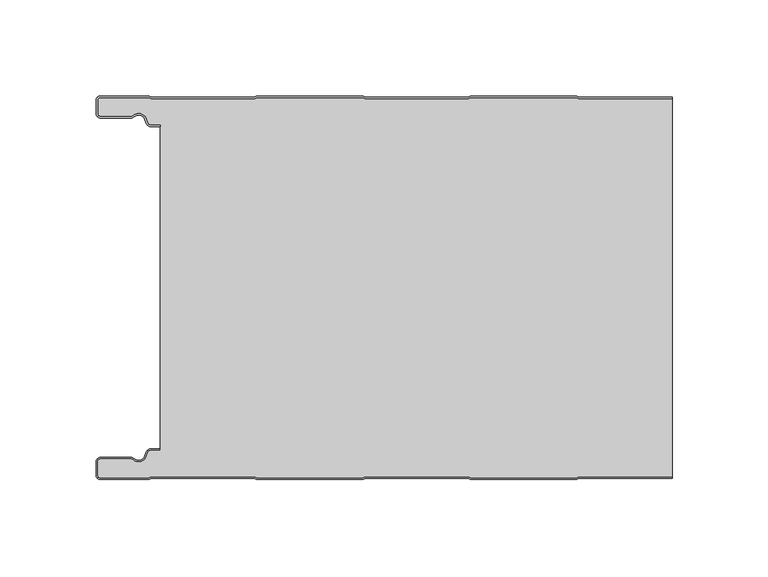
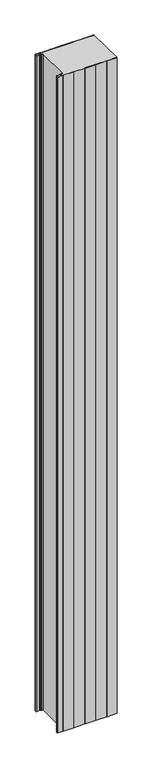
"""IFC4 building model written with IfcOpenShell, lengths in millimetres: plate geometry, ACH_Panel-Frigorífico_PUR-PIR : ACH_Panel-Frigorífico-PIR_200mm."""

from ifc_helpers import new_model, si_unit, point, frame_2d, origin, origin_with_axes, place, context, project, spatial, polyline, circle_curve, trimmed, segment, composite_curve, outline, extrude, source, transform, mapped, element, save


def plate_6adf54ea(model_context):
    return source(origin(), model_context, "Body", "SweptSolid", [
        extrude(outline(composite_curve([segment(trimmed(circle_curve(frame_2d((-147.49499, -9.0180361)), 2.50501), [point((-147.49499, -11.5230461))], [point((-150.0, -9.0180361))], False, "CARTESIAN"), True, "CONTINUOUS"), segment(polyline([(-150.0, -9.0180361), (-150.0, -2.50501)]), True, "CONTINUOUS"), segment(trimmed(circle_curve(frame_2d((-147.49499, -2.50501)), 2.50501), [point((-150.0, -2.50501))], [point((-147.49499, 0.0))], False, "CARTESIAN"), True, "CONTINUOUS"), segment(polyline([(-147.49499, 0.0), (-122.2103007, 0.0), (-121.028188, -0.6012024), (-67.6391467, -0.6012024), (-66.457034, 0.0), (-10.8776353, 0.0), (-9.6955227, -0.6012024), (43.6935186, -0.6012024), (44.8756313, 0.0), (100.45503, 0.0), (101.6371427, -0.6012024), (150.0, -0.6012024), (150.0, -1.4012024), (101.4453963, -1.4012024), (100.2632836, -0.8), (45.0673777, -0.8), (43.885265, -1.4012024), (-9.887269, -1.4012024), (-11.0693817, -0.8), (-66.2652876, -0.8), (-67.4474003, -1.4012024), (-121.2199344, -1.4012024), (-122.4020471, -0.8), (-147.49499, -0.8)]), True, "CONTINUOUS"), segment(trimmed(circle_curve(frame_2d((-147.49499, -2.50501)), 1.70501), [point((-147.49499, -0.8))], [point((-149.2, -2.50501))], True, "CARTESIAN"), True, "CONTINUOUS"), segment(polyline([(-149.2, -2.50501), (-149.2, -9.0180361)]), True, "CONTINUOUS"), segment(trimmed(circle_curve(frame_2d((-147.49499, -9.0180361)), 1.70501), [point((-149.2, -9.0180361))], [point((-147.49499, -10.7230461))], True, "CARTESIAN"), True, "CONTINUOUS"), segment(polyline([(-147.49499, -10.7230461), (-131.8173283, -10.7230461)]), True, "CONTINUOUS"), segment(trimmed(circle_curve(frame_2d((-131.8173283, -9.0180361)), 1.70501), [point((-131.8173283, -10.7230461))], [point((-130.6895701, -10.2967936))], True, "CARTESIAN"), True, "CONTINUOUS"), segment(trimmed(circle_curve(frame_2d((-127.8407481, -13.5270541)), 4.307014), [point((-130.6895701, -10.2967936))], [point((-123.7934788, -12.0539686))], False, "CARTESIAN"), True, "CONTINUOUS"), segment(polyline([(-123.7934788, -12.0539686), (-123.0450711, -14.1102019)]), True, "CONTINUOUS"), segment(trimmed(circle_curve(frame_2d((-121.4428858, -13.5270541)), 1.70501), [point((-123.0450711, -14.1102019))], [point((-121.4428858, -15.2320641))], True, "CARTESIAN"), True, "CONTINUOUS"), segment(polyline([(-121.4428858, -15.2320641), (-116.4328657, -15.2320641), (-116.4328657, -16.0320641), (-121.4428858, -16.0320641)]), True, "CONTINUOUS"), segment(trimmed(circle_curve(frame_2d((-121.4428858, -13.5270541)), 2.50501), [point((-121.4428858, -16.0320641))], [point((-123.7968252, -14.383818))], False, "CARTESIAN"), True, "CONTINUOUS"), segment(polyline([(-123.7968252, -14.383818), (-124.5452329, -12.3275847)]), True, "CONTINUOUS"), segment(trimmed(circle_curve(frame_2d((-127.8407481, -13.5270541)), 3.507014), [point((-124.5452329, -12.3275847))], [point((-130.1604199, -10.8967936))], True, "CARTESIAN"), True, "CONTINUOUS"), segment(trimmed(circle_curve(frame_2d((-131.8173283, -9.0180361)), 2.50501), [point((-130.1604199, -10.8967936))], [point((-131.8173283, -11.5230461))], False, "CARTESIAN"), True, "CONTINUOUS"), segment(polyline([(-131.8173283, -11.5230461), (-147.49499, -11.5230461)]), True, "CONTINUOUS")], self_intersect=False)), origin_with_axes(), (0.0, 0.0, 1.0), 3500.0),
        extrude(outline(composite_curve([segment(trimmed(circle_curve(frame_2d((-121.4428858, -13.5270541)), 1.70501), [point((-121.4428858, -15.2320641))], [point((-123.0450711, -14.1102019))], False, "CARTESIAN"), True, "CONTINUOUS"), segment(polyline([(-123.0450711, -14.1102019), (-123.7934788, -12.0539686)]), True, "CONTINUOUS"), segment(trimmed(circle_curve(frame_2d((-127.8407481, -13.5270541)), 4.307014), [point((-123.7934788, -12.0539686))], [point((-130.6895701, -10.2967936))], True, "CARTESIAN"), True, "CONTINUOUS"), segment(trimmed(circle_curve(frame_2d((-131.8173283, -9.0180361)), 1.70501), [point((-130.6895701, -10.2967936))], [point((-131.8173283, -10.7230461))], False, "CARTESIAN"), True, "CONTINUOUS"), segment(polyline([(-131.8173283, -10.7230461), (-147.49499, -10.7230461)]), True, "CONTINUOUS"), segment(trimmed(circle_curve(frame_2d((-147.49499, -9.0180361)), 1.70501), [point((-147.49499, -10.7230461))], [point((-149.2, -9.0180361))], False, "CARTESIAN"), True, "CONTINUOUS"), segment(polyline([(-149.2, -9.0180361), (-149.2, -2.50501)]), True, "CONTINUOUS"), segment(trimmed(circle_curve(frame_2d((-147.49499, -2.50501)), 1.70501), [point((-149.2, -2.50501))], [point((-147.49499, -0.8))], False, "CARTESIAN"), True, "CONTINUOUS"), segment(polyline([(-147.49499, -0.8), (-122.4020471, -0.8), (-121.2199344, -1.4012024), (-67.4474003, -1.4012024), (-66.2652876, -0.8), (-11.0693817, -0.8), (-9.887269, -1.4012024), (43.885265, -1.4012024), (45.0673777, -0.8), (100.2632836, -0.8), (101.4453963, -1.4012024), (150.0, -1.4012024), (150.0, -198.5987976), (101.4453963, -198.5987976), (100.2632836, -199.2), (45.0673777, -199.2), (43.885265, -198.5987976), (-9.887269, -198.5987976), (-11.0693817, -199.2), (-66.2652876, -199.2), (-67.4474003, -198.5987976), (-121.2199344, -198.5987976), (-122.4020471, -199.2), (-147.49499, -199.2)]), True, "CONTINUOUS"), segment(trimmed(circle_curve(frame_2d((-147.49499, -197.49499)), 1.70501), [point((-147.49499, -199.2))], [point((-149.2, -197.49499))], False, "CARTESIAN"), True, "CONTINUOUS"), segment(polyline([(-149.2, -197.49499), (-149.2, -190.9819639)]), True, "CONTINUOUS"), segment(trimmed(circle_curve(frame_2d((-147.49499, -190.9819639)), 1.70501), [point((-149.2, -190.9819639))], [point((-147.49499, -189.2769539))], False, "CARTESIAN"), True, "CONTINUOUS"), segment(polyline([(-147.49499, -189.2769539), (-131.8173283, -189.2769539)]), True, "CONTINUOUS"), segment(trimmed(circle_curve(frame_2d((-131.8173283, -190.9819639)), 1.70501), [point((-131.8173283, -189.2769539))], [point((-130.6895701, -189.7032064))], False, "CARTESIAN"), True, "CONTINUOUS"), segment(trimmed(circle_curve(frame_2d((-127.8407481, -186.4729459)), 4.307014), [point((-130.6895701, -189.7032064))], [point((-123.7934788, -187.9460314))], True, "CARTESIAN"), True, "CONTINUOUS"), segment(polyline([(-123.7934788, -187.9460314), (-123.0450711, -185.8897981)]), True, "CONTINUOUS"), segment(trimmed(circle_curve(frame_2d((-121.4428858, -186.4729459)), 1.70501), [point((-123.0450711, -185.8897981))], [point((-121.4428858, -184.7679359))], False, "CARTESIAN"), True, "CONTINUOUS"), segment(polyline([(-121.4428858, -184.7679359), (-116.4328657, -184.7679359), (-116.4328657, -15.2320641), (-121.4428858, -15.2320641)]), True, "CONTINUOUS")], self_intersect=False)), origin_with_axes(), (0.0, 0.0, 1.0), 3500.0),
        extrude(outline(composite_curve([segment(polyline([(-147.49499, -188.4769539), (-131.8173283, -188.4769539)]), True, "CONTINUOUS"), segment(trimmed(circle_curve(frame_2d((-131.8173283, -190.9819639)), 2.50501), [point((-131.8173283, -188.4769539))], [point((-130.1604199, -189.1032064))], False, "CARTESIAN"), True, "CONTINUOUS"), segment(trimmed(circle_curve(frame_2d((-127.8407481, -186.4729459)), 3.507014), [point((-130.1604199, -189.1032064))], [point((-124.5452329, -187.6724153))], True, "CARTESIAN"), True, "CONTINUOUS"), segment(polyline([(-124.5452329, -187.6724153), (-123.7968252, -185.616182)]), True, "CONTINUOUS"), segment(trimmed(circle_curve(frame_2d((-121.4428858, -186.4729459)), 2.50501), [point((-123.7968252, -185.616182))], [point((-121.4428858, -183.9679359))], False, "CARTESIAN"), True, "CONTINUOUS"), segment(polyline([(-121.4428858, -183.9679359), (-116.4328657, -183.9679359), (-116.4328657, -184.7679359), (-121.4428858, -184.7679359)]), True, "CONTINUOUS"), segment(trimmed(circle_curve(frame_2d((-121.4428858, -186.4729459)), 1.70501), [point((-121.4428858, -184.7679359))], [point((-123.0450711, -185.8897981))], True, "CARTESIAN"), True, "CONTINUOUS"), segment(polyline([(-123.0450711, -185.8897981), (-123.7934788, -187.9460314)]), True, "CONTINUOUS"), segment(trimmed(circle_curve(frame_2d((-127.8407481, -186.4729459)), 4.307014), [point((-123.7934788, -187.9460314))], [point((-130.6895701, -189.7032064))], False, "CARTESIAN"), True, "CONTINUOUS"), segment(trimmed(circle_curve(frame_2d((-131.8173283, -190.9819639)), 1.70501), [point((-130.6895701, -189.7032064))], [point((-131.8173283, -189.2769539))], True, "CARTESIAN"), True, "CONTINUOUS"), segment(polyline([(-131.8173283, -189.2769539), (-147.49499, -189.2769539)]), True, "CONTINUOUS"), segment(trimmed(circle_curve(frame_2d((-147.49499, -190.9819639)), 1.70501), [point((-147.49499, -189.2769539))], [point((-149.2, -190.9819639))], True, "CARTESIAN"), True, "CONTINUOUS"), segment(polyline([(-149.2, -190.9819639), (-149.2, -197.49499)]), True, "CONTINUOUS"), segment(trimmed(circle_curve(frame_2d((-147.49499, -197.49499)), 1.70501), [point((-149.2, -197.49499))], [point((-147.49499, -199.2))], True, "CARTESIAN"), True, "CONTINUOUS"), segment(polyline([(-147.49499, -199.2), (-122.4020471, -199.2), (-121.2199344, -198.5987976), (-67.4474003, -198.5987976), (-66.2652876, -199.2), (-11.0693817, -199.2), (-9.887269, -198.5987976), (43.885265, -198.5987976), (45.0673777, -199.2), (100.2632836, -199.2), (101.4453963, -198.5987976), (150.0, -198.5987976), (150.0, -199.3987976), (101.6371427, -199.3987976), (100.45503, -200.0), (44.8756313, -200.0), (43.6935186, -199.3987976), (-9.6955227, -199.3987976), (-10.8776353, -200.0), (-66.457034, -200.0), (-67.6391467, -199.3987976), (-121.028188, -199.3987976), (-122.2103007, -200.0), (-147.49499, -200.0)]), True, "CONTINUOUS"), segment(trimmed(circle_curve(frame_2d((-147.49499, -197.49499)), 2.50501), [point((-147.49499, -200.0))], [point((-150.0, -197.49499))], False, "CARTESIAN"), True, "CONTINUOUS"), segment(polyline([(-150.0, -197.49499), (-150.0, -190.9819639)]), True, "CONTINUOUS"), segment(trimmed(circle_curve(frame_2d((-147.49499, -190.9819639)), 2.50501), [point((-150.0, -190.9819639))], [point((-147.49499, -188.4769539))], False, "CARTESIAN"), True, "CONTINUOUS")], self_intersect=False)), origin_with_axes(), (0.0, 0.0, 1.0), 3500.0),
    ])


if __name__ == "__main__":
    model = new_model("IFC4")
    model_context = context("Model", 3, world=origin())
    ifc_project = project(units=[si_unit("LENGTHUNIT", "METRE", prefix="MILLI")], contexts=[model_context])
    site = spatial("IfcSite", under=ifc_project)
    building = spatial("IfcBuilding", under=site)
    placement = place(None, origin())
    plate_shape = plate_6adf54ea(model_context)
    element("IfcPlate", 1, ObjectType="ACH_Panel-Frigorífico_PUR-PIR : ACH_Panel-Frigorífico-PIR_200mm", at=placement, inside=building, context=model_context, shape_type="MappedRepresentation", body=[
        mapped(plate_shape, transform((0.0, 0.0, 0.0), x_axis=(1.0, 0.0, 0.0), y_axis=(0.0, 1.0, 0.0), z_axis=(0.0, 0.0, 1.0))),
    ])
    save(model, "model.ifc")
